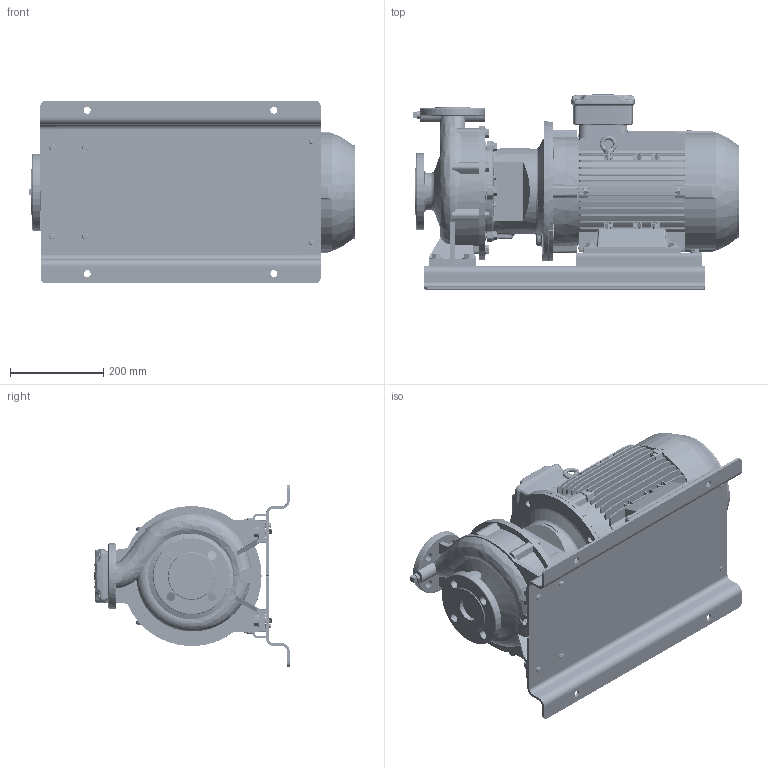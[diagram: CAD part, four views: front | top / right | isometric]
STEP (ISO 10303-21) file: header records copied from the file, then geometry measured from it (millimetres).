
FILE_DESCRIPTION (( 'STEP AP214' ), '1' );
FILE_NAME ('GSD2 32-200_9.2_(132M)_W21_BP.STEP', '2024-03-24T22:47:03', ( '' ), ( '' ), 'SwSTEP 2.0', 'SolidWorks 2019', '' );
FILE_SCHEMA (( 'AUTOMOTIVE_DESIGN' ));
Length unit declared in the file: millimetre
Products named in the file (10): 132M ALIE3_W21T_B35; Parametric bolt_SFT-A253B; 32-200-132M; Parametric Flat Washer_M12; N3S3 GSDA-336 F1-1832908-00; GSD2  32-200_9.2_(132M)_W21_BP; 140_178 x 28 - 271472025; Parametric bolt_SFT-A299B; Parametric Flat Washer_M10; Parametric bolt_SFT-A257B
Assembly tree (25 placements, depth 2):
  GSD2  32-200_9.2_(132M)_W21_BP
    32-200-132M
    N3S3 GSDA-336 F1-1832908-00
    140_178 x 28 - 271472025  x2
    Parametric bolt_SFT-A299B  x4
    Parametric bolt_SFT-A253B  x4
    Parametric bolt_SFT-A257B  x2
    Parametric Flat Washer_M10  x6
    Parametric Flat Washer_M12  x4
    132M ALIE3_W21T_B35
Bounding box: 700.45 x 418 x 390.26 mm (x, y, z)
Volume: 29786426.6 mm3; surface area: 2602032.2 mm2
Topology: 43 solids, 43 shells, 5265 faces, 13843 edges, 9005 vertices
Faces by surface type: plane 3031, cylinder 1360, torus 339, bspline 267, cone 236, sphere 32
Entity records: 230779 total; most frequent: CARTESIAN_POINT 62365, ORIENTED_EDGE 25434, DIRECTION 22802, EDGE_CURVE 12717, VERTEX_POINT 8289, LINE 8240, VECTOR 8240, AXIS2_PLACEMENT_3D 7281
